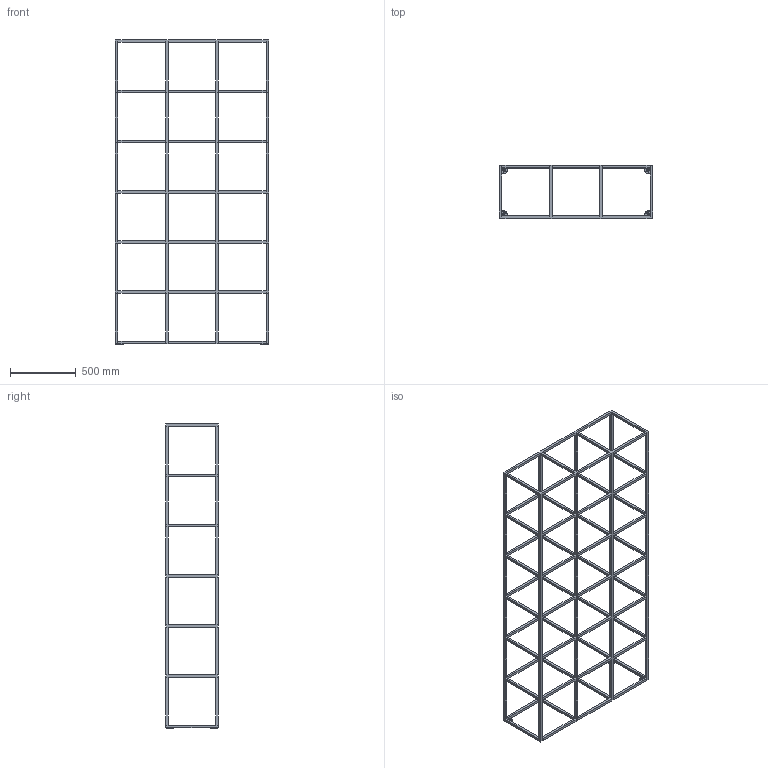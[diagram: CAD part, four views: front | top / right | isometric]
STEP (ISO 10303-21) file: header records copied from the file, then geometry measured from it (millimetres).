
FILE_DESCRIPTION(/* description */ (''),/* implementation_level */ '2;1');
FILE_NAME(/* name */ 'KI0069~1',/* time_stamp */ '2021-07-29T19:54:28+09:00',/* author */ (''),/* organization */ (''),/* preprocessor_version */ 'ST-DEVELOPER v16.5',/* originating_system */ '',/* authorisation */ '');
FILE_SCHEMA (('AUTOMOTIVE_DESIGN'));
Length unit declared in the file: millimetre
Products named in the file (1): Document
Bounding box: 1162 x 400 x 2308.2 mm (x, y, z)
Volume: 15850847.7 mm3; surface area: 3314663 mm2
Topology: 9 solids, 9 shells, 572 faces, 1260 edges, 588 vertices
Faces by surface type: plane 536, bspline 36
Entity records: 13884 total; most frequent: CARTESIAN_POINT 4806, ORIENTED_EDGE 2520, EDGE_CURVE 1260, B_SPLINE_CURVE_WITH_KNOTS 1152, EDGE_LOOP 628, VERTEX_POINT 588, ADVANCED_FACE 572, FACE_OUTER_BOUND 572
